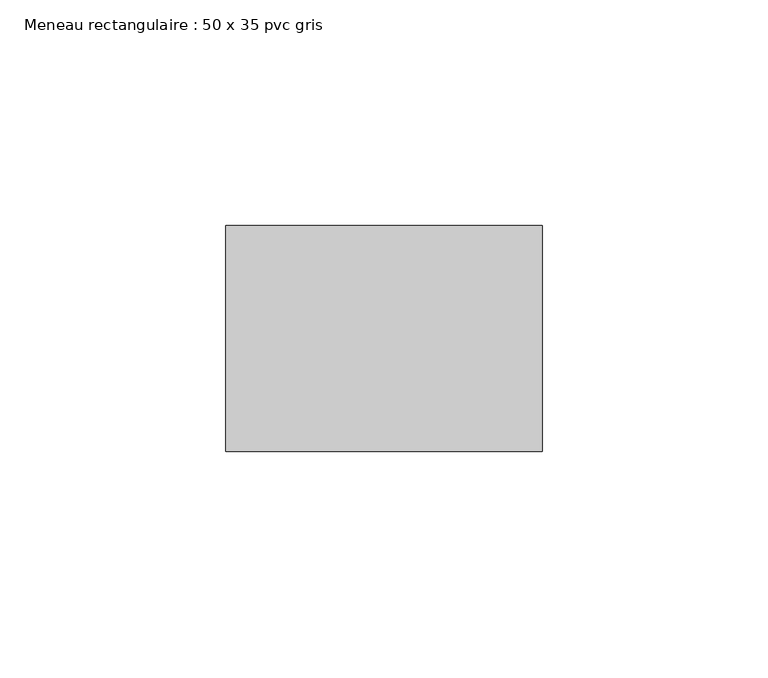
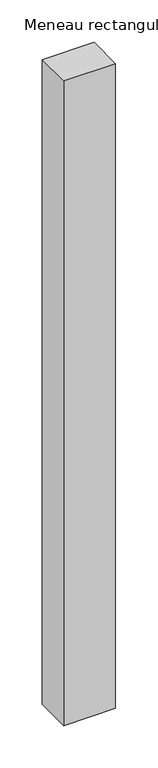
"""IFC4 building model written with IfcOpenShell, lengths in millimetres: member geometry, Meneau rectangulaire : 50 x 35 pvc gris."""

from ifc_helpers import new_model, si_unit, frame, origin, place, context, project, spatial, polyline, outline, extrude, source, transform, mapped, element, save


def meneau_rectangulaire_50_x_35_pvc_gris_ee2270d4(model_context):
    return source(origin(), model_context, "Body", "SweptSolid", [
        extrude(outline(polyline([(35.0, 0.0), (35.0, -50.0), (-35.0, -50.0), (-35.0, 0.0), (35.0, 0.0)])), frame((0.0, 0.0, -926.290296), z_axis=(0.0, 0.0, 1.0), x_axis=(1.0, 0.0, 0.0)), (0.0, 0.0, 1.0), 926.290296),
    ])


if __name__ == "__main__":
    model = new_model("IFC4")
    model_context = context("Model", 3, world=origin())
    ifc_project = project(units=[si_unit("LENGTHUNIT", "METRE", prefix="MILLI")], contexts=[model_context])
    site = spatial("IfcSite", under=ifc_project)
    building = spatial("IfcBuilding", under=site)
    placement = place(None, origin())
    meneau_rectangulaire_50_x_35_pvc_gris_shape = meneau_rectangulaire_50_x_35_pvc_gris_ee2270d4(model_context)
    element("IfcMember", 1, ObjectType="Meneau rectangulaire : 50 x 35 pvc gris", at=placement, inside=building, context=model_context, shape_type="MappedRepresentation", body=[
        mapped(meneau_rectangulaire_50_x_35_pvc_gris_shape, transform((0.0, 0.0, 0.0), x_axis=(1.0, 0.0, 0.0), y_axis=(0.0, 1.0, 0.0), z_axis=(0.0, 0.0, 1.0))),
    ])
    save(model, "model.ifc")
